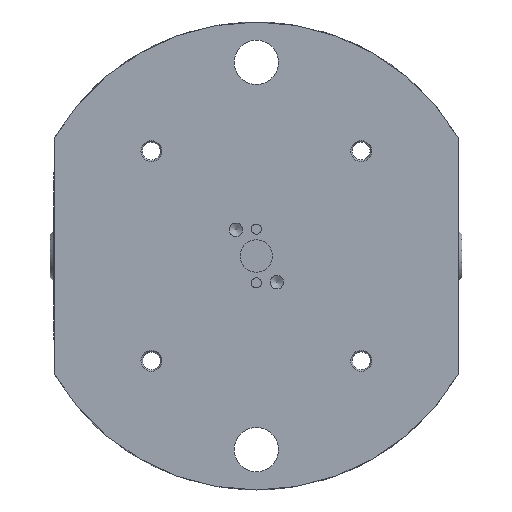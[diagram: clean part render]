
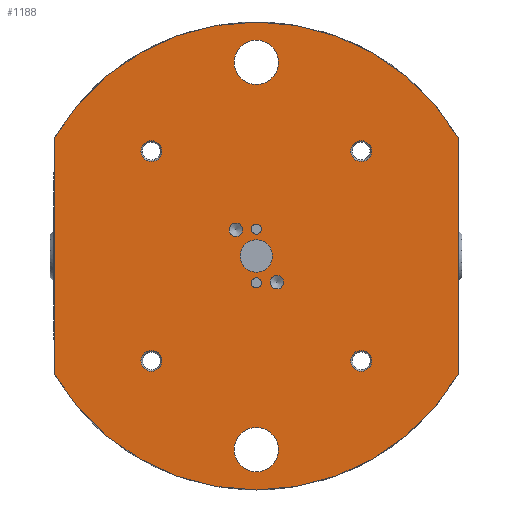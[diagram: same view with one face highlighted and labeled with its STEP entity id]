
A CAD part, front view. The second image highlights one B-rep face of the part: STEP entity #1188.
In plain terms, the highlighted planar face has unit normal (0, -1, 0).
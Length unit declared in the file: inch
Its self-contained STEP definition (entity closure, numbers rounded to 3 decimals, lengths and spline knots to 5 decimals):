
#38 = FACE_BOUND ( 'NONE', #5092, .T. ) ;
#116 = DIRECTION ( 'NONE',  ( 0., 0., -1. ) ) ;
#123 = DIRECTION ( 'NONE',  ( 0., 0., 1. ) ) ;
#143 = CARTESIAN_POINT ( 'NONE',  ( -0.2, 0., 0.19121 ) ) ;
#201 = AXIS2_PLACEMENT_3D ( 'NONE', #5201, #733, #123 ) ;
#239 = EDGE_CURVE ( 'NONE', #4770, #7186, #2772, .T. ) ;
#341 = ORIENTED_EDGE ( 'NONE', *, *, #6208, .T. ) ;
#358 = CIRCLE ( 'NONE', #3388, 0.158 ) ;
#361 = CIRCLE ( 'NONE', #4986, 0.06496 ) ;
#469 = CARTESIAN_POINT ( 'NONE',  ( 0., 0., -0.21329 ) ) ;
#506 = ORIENTED_EDGE ( 'NONE', *, *, #6420, .F. ) ;
#605 = FACE_BOUND ( 'NONE', #6423, .T. ) ;
#653 = CARTESIAN_POINT ( 'NONE',  ( 0., 0., -1.88976 ) ) ;
#674 = CARTESIAN_POINT ( 'NONE',  ( 0., 0., 0. ) ) ;
#719 = CARTESIAN_POINT ( 'NONE',  ( 1.02362, 0., -0.92162 ) ) ;
#733 = DIRECTION ( 'NONE',  ( 0., 1., 0. ) ) ;
#757 = AXIS2_PLACEMENT_3D ( 'NONE', #653, #6351, #5776 ) ;
#775 = EDGE_CURVE ( 'NONE', #6644, #6644, #4642, .T. ) ;
#950 = ORIENTED_EDGE ( 'NONE', *, *, #5150, .T. ) ;
#955 = CARTESIAN_POINT ( 'NONE',  ( 1.02362, 0., -1.02362 ) ) ;
#1188 = ADVANCED_FACE ( 'NONE', ( #6297, #3697, #605, #2460, #38, #7444, #4903, #3120, #5597, #8094, #1916, #1256 ), #1216, .F. ) ;
#1216 = PLANE ( 'NONE',  #6588 ) ;
#1219 = VERTEX_POINT ( 'NONE', #1801 ) ;
#1229 = CARTESIAN_POINT ( 'NONE',  ( -0.2, 0., 0.25617 ) ) ;
#1241 = DIRECTION ( 'NONE',  ( 0., -1., 0. ) ) ;
#1256 = FACE_OUTER_BOUND ( 'NONE', #3006, .T. ) ;
#1299 = EDGE_CURVE ( 'NONE', #7303, #7303, #2688, .T. ) ;
#1305 = DIRECTION ( 'NONE',  ( 0., 0., -1. ) ) ;
#1336 = CARTESIAN_POINT ( 'NONE',  ( -1.02362, 0., -0.92162 ) ) ;
#1383 = ORIENTED_EDGE ( 'NONE', *, *, #3532, .F. ) ;
#1384 = CARTESIAN_POINT ( 'NONE',  ( 0., 0., -0.158 ) ) ;
#1420 = CARTESIAN_POINT ( 'NONE',  ( 1.9685, 0., 1.15724 ) ) ;
#1443 = CIRCLE ( 'NONE', #6059, 2.28346 ) ;
#1475 = ORIENTED_EDGE ( 'NONE', *, *, #5450, .T. ) ;
#1503 = ORIENTED_EDGE ( 'NONE', *, *, #775, .T. ) ;
#1602 = EDGE_LOOP ( 'NONE', ( #506 ) ) ;
#1727 = DIRECTION ( 'NONE',  ( 0., 0., 1. ) ) ;
#1749 = CARTESIAN_POINT ( 'NONE',  ( 1.9685, 0., -1.15724 ) ) ;
#1801 = CARTESIAN_POINT ( 'NONE',  ( 0., 0., 0.31171 ) ) ;
#1903 = VERTEX_POINT ( 'NONE', #143 ) ;
#1916 = FACE_BOUND ( 'NONE', #3014, .T. ) ;
#1921 = DIRECTION ( 'NONE',  ( 0., 1., 0. ) ) ;
#1948 = VERTEX_POINT ( 'NONE', #1384 ) ;
#2039 = VERTEX_POINT ( 'NONE', #1336 ) ;
#2065 = EDGE_CURVE ( 'NONE', #7833, #7833, #4140, .T. ) ;
#2080 = EDGE_LOOP ( 'NONE', ( #6265 ) ) ;
#2119 = DIRECTION ( 'NONE',  ( 0., 1., 0. ) ) ;
#2297 = CIRCLE ( 'NONE', #201, 2.28346 ) ;
#2448 = EDGE_CURVE ( 'NONE', #6126, #6126, #6370, .T. ) ;
#2460 = FACE_BOUND ( 'NONE', #7950, .T. ) ;
#2541 = DIRECTION ( 'NONE',  ( 0., 1., 0. ) ) ;
#2635 = ORIENTED_EDGE ( 'NONE', *, *, #7686, .F. ) ;
#2688 = CIRCLE ( 'NONE', #3735, 0.06496 ) ;
#2709 = DIRECTION ( 'NONE',  ( 0., 1., 0. ) ) ;
#2765 = CARTESIAN_POINT ( 'NONE',  ( 0., 0., -0.2625 ) ) ;
#2772 = LINE ( 'NONE', #4718, #6336 ) ;
#2835 = ORIENTED_EDGE ( 'NONE', *, *, #2448, .T. ) ;
#2902 = CARTESIAN_POINT ( 'NONE',  ( 0., 0., 2.1063 ) ) ;
#2919 = EDGE_CURVE ( 'NONE', #1219, #1219, #7480, .T. ) ;
#2926 = DIRECTION ( 'NONE',  ( 0., 1., 0. ) ) ;
#2930 = EDGE_LOOP ( 'NONE', ( #341 ) ) ;
#3006 = EDGE_LOOP ( 'NONE', ( #4184, #4898, #2635, #7243 ) ) ;
#3014 = EDGE_LOOP ( 'NONE', ( #3215 ) ) ;
#3047 = VERTEX_POINT ( 'NONE', #1749 ) ;
#3052 = DIRECTION ( 'NONE',  ( 0., 1., 0. ) ) ;
#3071 = DIRECTION ( 'NONE',  ( 0., 0., -1. ) ) ;
#3120 = FACE_BOUND ( 'NONE', #2080, .T. ) ;
#3153 = VERTEX_POINT ( 'NONE', #719 ) ;
#3215 = ORIENTED_EDGE ( 'NONE', *, *, #2919, .T. ) ;
#3345 = CARTESIAN_POINT ( 'NONE',  ( -1.9685, 0., -1.15724 ) ) ;
#3388 = AXIS2_PLACEMENT_3D ( 'NONE', #674, #1241, #3071 ) ;
#3532 = EDGE_CURVE ( 'NONE', #1903, #1903, #361, .T. ) ;
#3538 = DIRECTION ( 'NONE',  ( 0., 0., 1. ) ) ;
#3582 = AXIS2_PLACEMENT_3D ( 'NONE', #6339, #2541, #5066 ) ;
#3655 = CIRCLE ( 'NONE', #4720, 0.102 ) ;
#3697 = FACE_BOUND ( 'NONE', #3738, .T. ) ;
#3735 = AXIS2_PLACEMENT_3D ( 'NONE', #7652, #5770, #116 ) ;
#3738 = EDGE_LOOP ( 'NONE', ( #1503 ) ) ;
#3753 = DIRECTION ( 'NONE',  ( 0., 0., 1. ) ) ;
#3775 = ORIENTED_EDGE ( 'NONE', *, *, #2065, .T. ) ;
#3815 = DIRECTION ( 'NONE',  ( 0., 0., 1. ) ) ;
#3817 = VERTEX_POINT ( 'NONE', #5844 ) ;
#3878 = AXIS2_PLACEMENT_3D ( 'NONE', #7595, #2119, #3815 ) ;
#3881 = CARTESIAN_POINT ( 'NONE',  ( 1.02362, 0., 1.02362 ) ) ;
#3893 = VERTEX_POINT ( 'NONE', #6415 ) ;
#3970 = DIRECTION ( 'NONE',  ( 0., 1., 0. ) ) ;
#4140 = CIRCLE ( 'NONE', #3878, 0.102 ) ;
#4184 = ORIENTED_EDGE ( 'NONE', *, *, #4957, .F. ) ;
#4386 = VERTEX_POINT ( 'NONE', #1420 ) ;
#4400 = EDGE_LOOP ( 'NONE', ( #6300 ) ) ;
#4452 = DIRECTION ( 'NONE',  ( 0., 0., 1. ) ) ;
#4642 = CIRCLE ( 'NONE', #3582, 0.21654 ) ;
#4659 = DIRECTION ( 'NONE',  ( 0., 0., 1. ) ) ;
#4718 = CARTESIAN_POINT ( 'NONE',  ( -1.9685, 0., -1.25 ) ) ;
#4720 = AXIS2_PLACEMENT_3D ( 'NONE', #7659, #1921, #4452 ) ;
#4770 = VERTEX_POINT ( 'NONE', #7705 ) ;
#4873 = CARTESIAN_POINT ( 'NONE',  ( 0., 0., 0. ) ) ;
#4876 = CIRCLE ( 'NONE', #5272, 0.102 ) ;
#4898 = ORIENTED_EDGE ( 'NONE', *, *, #7776, .T. ) ;
#4903 = FACE_BOUND ( 'NONE', #5931, .T. ) ;
#4957 = EDGE_CURVE ( 'NONE', #3047, #7186, #1443, .T. ) ;
#4986 = AXIS2_PLACEMENT_3D ( 'NONE', #1229, #6404, #1305 ) ;
#4987 = DIRECTION ( 'NONE',  ( 0., 1., 0. ) ) ;
#5066 = DIRECTION ( 'NONE',  ( 0., 0., 1. ) ) ;
#5071 = CARTESIAN_POINT ( 'NONE',  ( 0., 0., 0. ) ) ;
#5092 = EDGE_LOOP ( 'NONE', ( #3775 ) ) ;
#5150 = EDGE_CURVE ( 'NONE', #3893, #3893, #4876, .T. ) ;
#5201 = CARTESIAN_POINT ( 'NONE',  ( 0., 0., 0. ) ) ;
#5264 = EDGE_LOOP ( 'NONE', ( #2835 ) ) ;
#5272 = AXIS2_PLACEMENT_3D ( 'NONE', #3881, #3052, #3753 ) ;
#5288 = DIRECTION ( 'NONE',  ( 0., 0., 1. ) ) ;
#5317 = LINE ( 'NONE', #7161, #5465 ) ;
#5417 = CARTESIAN_POINT ( 'NONE',  ( 0.2, 0., -0.32113 ) ) ;
#5450 = EDGE_CURVE ( 'NONE', #3153, #3153, #7748, .T. ) ;
#5461 = CARTESIAN_POINT ( 'NONE',  ( -1.02362, 0., 1.12562 ) ) ;
#5465 = VECTOR ( 'NONE', #7199, 39.37008 ) ;
#5597 = FACE_BOUND ( 'NONE', #1602, .T. ) ;
#5770 = DIRECTION ( 'NONE',  ( 0., -1., 0. ) ) ;
#5775 = CIRCLE ( 'NONE', #757, 0.21654 ) ;
#5776 = DIRECTION ( 'NONE',  ( 0., 0., 1. ) ) ;
#5844 = CARTESIAN_POINT ( 'NONE',  ( 0., 0., -1.67323 ) ) ;
#5931 = EDGE_LOOP ( 'NONE', ( #1383 ) ) ;
#6059 = AXIS2_PLACEMENT_3D ( 'NONE', #4873, #6636, #1727 ) ;
#6126 = VERTEX_POINT ( 'NONE', #469 ) ;
#6155 = EDGE_CURVE ( 'NONE', #3817, #3817, #5775, .T. ) ;
#6208 = EDGE_CURVE ( 'NONE', #2039, #2039, #3655, .T. ) ;
#6265 = ORIENTED_EDGE ( 'NONE', *, *, #1299, .F. ) ;
#6297 = FACE_BOUND ( 'NONE', #4400, .T. ) ;
#6300 = ORIENTED_EDGE ( 'NONE', *, *, #6155, .T. ) ;
#6336 = VECTOR ( 'NONE', #7212, 39.37008 ) ;
#6339 = CARTESIAN_POINT ( 'NONE',  ( 0., 0., 1.88976 ) ) ;
#6351 = DIRECTION ( 'NONE',  ( 0., 1., 0. ) ) ;
#6370 = CIRCLE ( 'NONE', #7532, 0.04921 ) ;
#6404 = DIRECTION ( 'NONE',  ( 0., -1., 0. ) ) ;
#6415 = CARTESIAN_POINT ( 'NONE',  ( 1.02362, 0., 1.12562 ) ) ;
#6420 = EDGE_CURVE ( 'NONE', #1948, #1948, #358, .T. ) ;
#6423 = EDGE_LOOP ( 'NONE', ( #1475 ) ) ;
#6588 = AXIS2_PLACEMENT_3D ( 'NONE', #5071, #4987, #7483 ) ;
#6636 = DIRECTION ( 'NONE',  ( 0., 1., 0. ) ) ;
#6644 = VERTEX_POINT ( 'NONE', #2902 ) ;
#6972 = AXIS2_PLACEMENT_3D ( 'NONE', #955, #2926, #3538 ) ;
#7161 = CARTESIAN_POINT ( 'NONE',  ( 1.9685, 0., -1.25 ) ) ;
#7186 = VERTEX_POINT ( 'NONE', #3345 ) ;
#7199 = DIRECTION ( 'NONE',  ( 0., 0., 1. ) ) ;
#7212 = DIRECTION ( 'NONE',  ( 0., 0., -1. ) ) ;
#7243 = ORIENTED_EDGE ( 'NONE', *, *, #239, .T. ) ;
#7303 = VERTEX_POINT ( 'NONE', #5417 ) ;
#7444 = FACE_BOUND ( 'NONE', #2930, .T. ) ;
#7480 = CIRCLE ( 'NONE', #7738, 0.04921 ) ;
#7483 = DIRECTION ( 'NONE',  ( 0., 0., 1. ) ) ;
#7532 = AXIS2_PLACEMENT_3D ( 'NONE', #2765, #3970, #5288 ) ;
#7595 = CARTESIAN_POINT ( 'NONE',  ( -1.02362, 0., 1.02362 ) ) ;
#7652 = CARTESIAN_POINT ( 'NONE',  ( 0.2, 0., -0.25617 ) ) ;
#7659 = CARTESIAN_POINT ( 'NONE',  ( -1.02362, 0., -1.02362 ) ) ;
#7686 = EDGE_CURVE ( 'NONE', #4770, #4386, #2297, .T. ) ;
#7705 = CARTESIAN_POINT ( 'NONE',  ( -1.9685, 0., 1.15724 ) ) ;
#7738 = AXIS2_PLACEMENT_3D ( 'NONE', #7841, #2709, #4659 ) ;
#7748 = CIRCLE ( 'NONE', #6972, 0.102 ) ;
#7776 = EDGE_CURVE ( 'NONE', #3047, #4386, #5317, .T. ) ;
#7833 = VERTEX_POINT ( 'NONE', #5461 ) ;
#7841 = CARTESIAN_POINT ( 'NONE',  ( 0., 0., 0.2625 ) ) ;
#7950 = EDGE_LOOP ( 'NONE', ( #950 ) ) ;
#8094 = FACE_BOUND ( 'NONE', #5264, .T. ) ;
